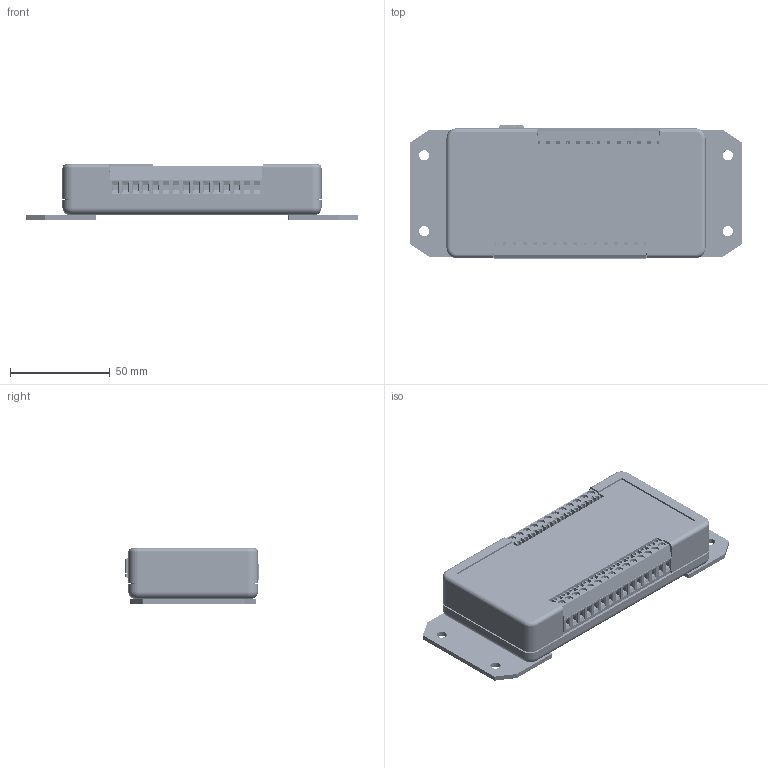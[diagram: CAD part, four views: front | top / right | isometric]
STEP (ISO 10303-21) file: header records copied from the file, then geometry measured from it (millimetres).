
FILE_DESCRIPTION (( 'STEP AP214' ), '1' );
FILE_NAME ('ADU Terminal Block, Flange.STEP', '2018-09-24T19:37:17', ( '' ), ( '' ), 'SwSTEP 2.0', 'SolidWorks 2014', '' );
FILE_SCHEMA (( 'AUTOMOTIVE_DESIGN' ));
Length unit declared in the file: millimetre
Products named in the file (10): 91420A128_METRIC FLAT HEAD PHILLIPS MACHINE SCREW_91420A128; Mounting Bracket ADU; 94510A240_BRASS SCREW-TO-EXPAND INSERTS FOR PLASTICS_94510A240; ADU Top; USB; Wieland_25.163.0353.0_CAD STEP data; 90380A106_PHILLIPS THREAD-FORMING SCREW FOR PLASTIC_90380A106; PCB; ADU Base; ADU Terminal Block, Flange
Assembly tree (27 placements, depth 2):
  ADU Terminal Block, Flange
    ADU Base
    PCB
    90380A106_PHILLIPS THREAD-FORMING SCREW FOR PLASTIC_90380A106  x4
    Wieland_25.163.0353.0_CAD STEP data  x9
    USB
    ADU Top
    94510A240_BRASS SCREW-TO-EXPAND INSERTS FOR PLASTICS_94510A240  x4
    Mounting Bracket ADU  x2
    91420A128_METRIC FLAT HEAD PHILLIPS MACHINE SCREW_91420A128  x4
Bounding box: 166.64 x 66.8 x 28.04 mm (x, y, z)
Volume: 91966.5 mm3; surface area: 89486.4 mm2
Topology: 26 solids, 27 shells, 7322 faces, 17677 edges, 10489 vertices
Faces by surface type: bspline 3154, cylinder 1927, plane 1911, cone 290, torus 32, sphere 8
Entity records: 125140 total; most frequent: CARTESIAN_POINT 75429, ORIENTED_EDGE 11892, DIRECTION 7203, EDGE_CURVE 5950, VERTEX_POINT 3590, LINE 2543, VECTOR 2543, EDGE_LOOP 2500
